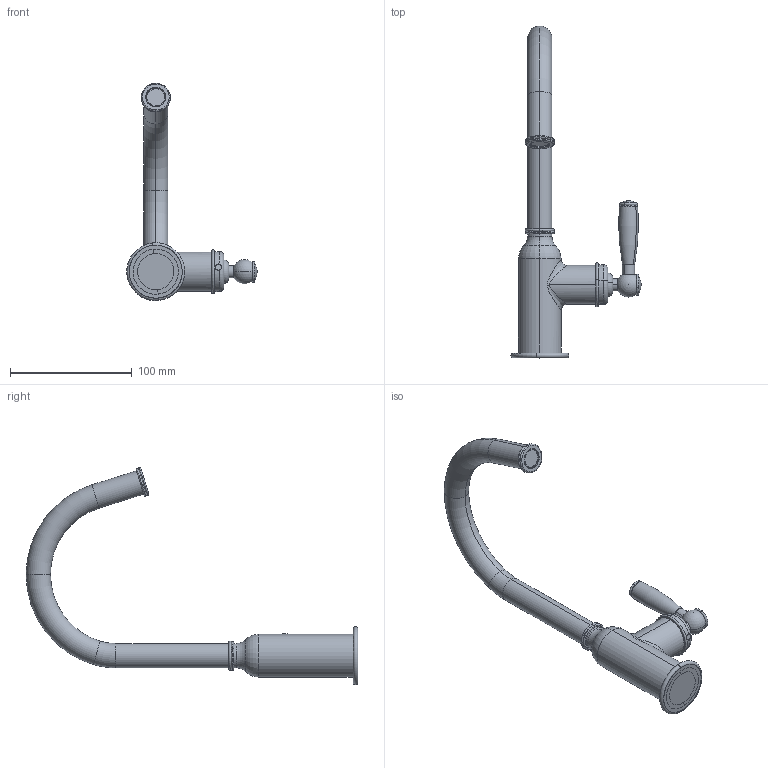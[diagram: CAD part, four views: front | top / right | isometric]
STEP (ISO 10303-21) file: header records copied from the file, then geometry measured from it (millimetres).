
FILE_DESCRIPTION (( 'STEP AP214' ), '1' );
FILE_NAME ('84329510 X ARCHITETTI.STEP', '2026-03-24T10:24:05', ( '' ), ( '' ), 'SwSTEP 2.0', 'SolidWorks 2020', '' );
FILE_SCHEMA (( 'AUTOMOTIVE_DESIGN' ));
Length unit declared in the file: millimetre
Products named in the file (1): 84329510 X ARCHITETTI
Bounding box: 106.91 x 272.29 x 178.29 mm (x, y, z)
Volume: 177759.3 mm3; surface area: 63085.6 mm2
Topology: 6 solids, 8 shells, 241 faces, 553 edges, 337 vertices
Faces by surface type: cylinder 89, plane 64, torus 52, cone 30, bspline 4, sphere 2
Entity records: 10425 total; most frequent: CARTESIAN_POINT 2295, DIRECTION 1295, ORIENTED_EDGE 1078, AXIS2_PLACEMENT_3D 553, EDGE_CURVE 539, VERTEX_POINT 333, CIRCLE 315, EDGE_LOOP 270
